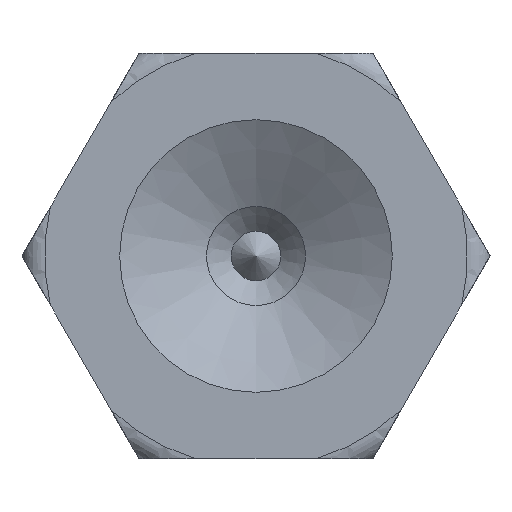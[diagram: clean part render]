
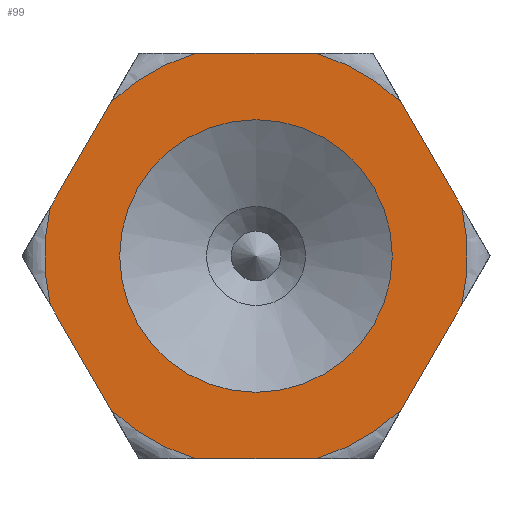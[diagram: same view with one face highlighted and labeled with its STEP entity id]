
A CAD part, left-side view. The second image highlights one B-rep face of the part: STEP entity #99.
In plain terms, the highlighted planar face has unit normal (-1, 0, 0).
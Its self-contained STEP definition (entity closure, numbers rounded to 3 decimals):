
#99 = ADVANCED_FACE( '', ( #174, #175 ), #176, .F. );
#174 = FACE_OUTER_BOUND( '', #260, .T. );
#175 = FACE_BOUND( '', #261, .T. );
#176 = PLANE( '', #262 );
#260 = EDGE_LOOP( '', ( #441, #442, #443, #444, #445, #446, #447, #448, #449, #450, #451, #452 ) );
#261 = EDGE_LOOP( '', ( #453 ) );
#262 = AXIS2_PLACEMENT_3D( '', #454, #455, #456 );
#441 = ORIENTED_EDGE( '', *, *, #587, .F. );
#442 = ORIENTED_EDGE( '', *, *, #588, .F. );
#443 = ORIENTED_EDGE( '', *, *, #537, .F. );
#444 = ORIENTED_EDGE( '', *, *, #559, .F. );
#445 = ORIENTED_EDGE( '', *, *, #589, .F. );
#446 = ORIENTED_EDGE( '', *, *, #554, .F. );
#447 = ORIENTED_EDGE( '', *, *, #545, .F. );
#448 = ORIENTED_EDGE( '', *, *, #555, .F. );
#449 = ORIENTED_EDGE( '', *, *, #552, .F. );
#450 = ORIENTED_EDGE( '', *, *, #590, .F. );
#451 = ORIENTED_EDGE( '', *, *, #570, .F. );
#452 = ORIENTED_EDGE( '', *, *, #591, .F. );
#453 = ORIENTED_EDGE( '', *, *, #557, .T. );
#454 = CARTESIAN_POINT( '', ( 0., 0., 0. ) );
#455 = DIRECTION( '', ( 1., 0., 0. ) );
#456 = DIRECTION( '', ( 0., 0., -1. ) );
#537 = EDGE_CURVE( '', #616, #604, #618, .T. );
#545 = EDGE_CURVE( '', #632, #620, #634, .T. );
#552 = EDGE_CURVE( '', #645, #635, #647, .T. );
#554 = EDGE_CURVE( '', #620, #648, #650, .T. );
#555 = EDGE_CURVE( '', #635, #632, #651, .T. );
#557 = EDGE_CURVE( '', #654, #654, #655, .T. );
#559 = EDGE_CURVE( '', #656, #616, #658, .T. );
#570 = EDGE_CURVE( '', #673, #676, #677, .T. );
#587 = EDGE_CURVE( '', #705, #706, #707, .T. );
#588 = EDGE_CURVE( '', #604, #705, #708, .T. );
#589 = EDGE_CURVE( '', #648, #656, #709, .T. );
#590 = EDGE_CURVE( '', #676, #645, #710, .T. );
#591 = EDGE_CURVE( '', #706, #673, #711, .T. );
#604 = VERTEX_POINT( '', #754 );
#616 = VERTEX_POINT( '', #808 );
#618 = LINE( '', #823, #824 );
#620 = VERTEX_POINT( '', #826 );
#632 = VERTEX_POINT( '', #880 );
#634 = LINE( '', #895, #896 );
#635 = VERTEX_POINT( '', #897 );
#645 = VERTEX_POINT( '', #948 );
#647 = LINE( '', #963, #964 );
#648 = VERTEX_POINT( '', #965 );
#650 = CIRCLE( '', #982, 14.089 );
#651 = CIRCLE( '', #983, 14.089 );
#654 = VERTEX_POINT( '', #986 );
#655 = CIRCLE( '', #987, 9.081 );
#656 = VERTEX_POINT( '', #988 );
#658 = CIRCLE( '', #1007, 14.089 );
#673 = VERTEX_POINT( '', #1025 );
#676 = VERTEX_POINT( '', #1043 );
#677 = LINE( '', #1044, #1045 );
#705 = VERTEX_POINT( '', #1106 );
#706 = VERTEX_POINT( '', #1107 );
#707 = LINE( '', #1108, #1109 );
#708 = CIRCLE( '', #1110, 14.089 );
#709 = LINE( '', #1111, #1112 );
#710 = CIRCLE( '', #1113, 14.089 );
#711 = CIRCLE( '', #1114, 14.089 );
#754 = CARTESIAN_POINT( '', ( 0., 13.706, -3.26 ) );
#808 = CARTESIAN_POINT( '', ( 0., 9.677, -10.24 ) );
#823 = CARTESIAN_POINT( '', ( 0., 7.794, -13.5 ) );
#824 = VECTOR( '', #1197, 1000. );
#826 = CARTESIAN_POINT( '', ( 0., -9.677, -10.24 ) );
#880 = CARTESIAN_POINT( '', ( 0., -13.706, -3.26 ) );
#895 = CARTESIAN_POINT( '', ( 0., -15.588, 0. ) );
#896 = VECTOR( '', #1201, 1000. );
#897 = CARTESIAN_POINT( '', ( 0., -13.706, 3.26 ) );
#948 = CARTESIAN_POINT( '', ( 0., -9.677, 10.24 ) );
#963 = CARTESIAN_POINT( '', ( 0., -7.794, 13.5 ) );
#964 = VECTOR( '', #1204, 1000. );
#965 = CARTESIAN_POINT( '', ( 0., -4.029, -13.5 ) );
#982 = AXIS2_PLACEMENT_3D( '', #1205, #1206, #1207 );
#983 = AXIS2_PLACEMENT_3D( '', #1208, #1209, #1210 );
#986 = CARTESIAN_POINT( '', ( 0., 0., -9.081 ) );
#987 = AXIS2_PLACEMENT_3D( '', #1214, #1215, #1216 );
#988 = CARTESIAN_POINT( '', ( 0., 4.029, -13.5 ) );
#1007 = AXIS2_PLACEMENT_3D( '', #1217, #1218, #1219 );
#1025 = CARTESIAN_POINT( '', ( 0., 4.029, 13.5 ) );
#1043 = CARTESIAN_POINT( '', ( 0., -4.029, 13.5 ) );
#1044 = CARTESIAN_POINT( '', ( 0., 7.794, 13.5 ) );
#1045 = VECTOR( '', #1241, 1000. );
#1106 = CARTESIAN_POINT( '', ( 0., 13.706, 3.26 ) );
#1107 = CARTESIAN_POINT( '', ( 0., 9.677, 10.24 ) );
#1108 = CARTESIAN_POINT( '', ( 0., 15.588, 0. ) );
#1109 = VECTOR( '', #1279, 1000. );
#1110 = AXIS2_PLACEMENT_3D( '', #1280, #1281, #1282 );
#1111 = CARTESIAN_POINT( '', ( 0., -7.794, -13.5 ) );
#1112 = VECTOR( '', #1283, 1000. );
#1113 = AXIS2_PLACEMENT_3D( '', #1284, #1285, #1286 );
#1114 = AXIS2_PLACEMENT_3D( '', #1287, #1288, #1289 );
#1197 = DIRECTION( '', ( 0., 0.5, 0.866 ) );
#1201 = DIRECTION( '', ( 0., 0.5, -0.866 ) );
#1204 = DIRECTION( '', ( 0., -0.5, -0.866 ) );
#1205 = CARTESIAN_POINT( '', ( 0., 0., 0. ) );
#1206 = DIRECTION( '', ( 1., 0., 0. ) );
#1207 = DIRECTION( '', ( 0., 0., -1. ) );
#1208 = CARTESIAN_POINT( '', ( 0., 0., 0. ) );
#1209 = DIRECTION( '', ( 1., 0., 0. ) );
#1210 = DIRECTION( '', ( 0., 0., -1. ) );
#1214 = CARTESIAN_POINT( '', ( 0., 0., 0. ) );
#1215 = DIRECTION( '', ( 1., 0., 0. ) );
#1216 = DIRECTION( '', ( 0., 0., -1. ) );
#1217 = CARTESIAN_POINT( '', ( 0., 0., 0. ) );
#1218 = DIRECTION( '', ( 1., 0., 0. ) );
#1219 = DIRECTION( '', ( 0., 0., -1. ) );
#1241 = DIRECTION( '', ( 0., -1., 0. ) );
#1279 = DIRECTION( '', ( 0., -0.5, 0.866 ) );
#1280 = CARTESIAN_POINT( '', ( 0., 0., 0. ) );
#1281 = DIRECTION( '', ( 1., 0., 0. ) );
#1282 = DIRECTION( '', ( 0., 0., -1. ) );
#1283 = DIRECTION( '', ( 0., 1., 0. ) );
#1284 = CARTESIAN_POINT( '', ( 0., 0., 0. ) );
#1285 = DIRECTION( '', ( 1., 0., 0. ) );
#1286 = DIRECTION( '', ( 0., 0., -1. ) );
#1287 = CARTESIAN_POINT( '', ( 0., 0., 0. ) );
#1288 = DIRECTION( '', ( 1., 0., 0. ) );
#1289 = DIRECTION( '', ( 0., 0., -1. ) );
